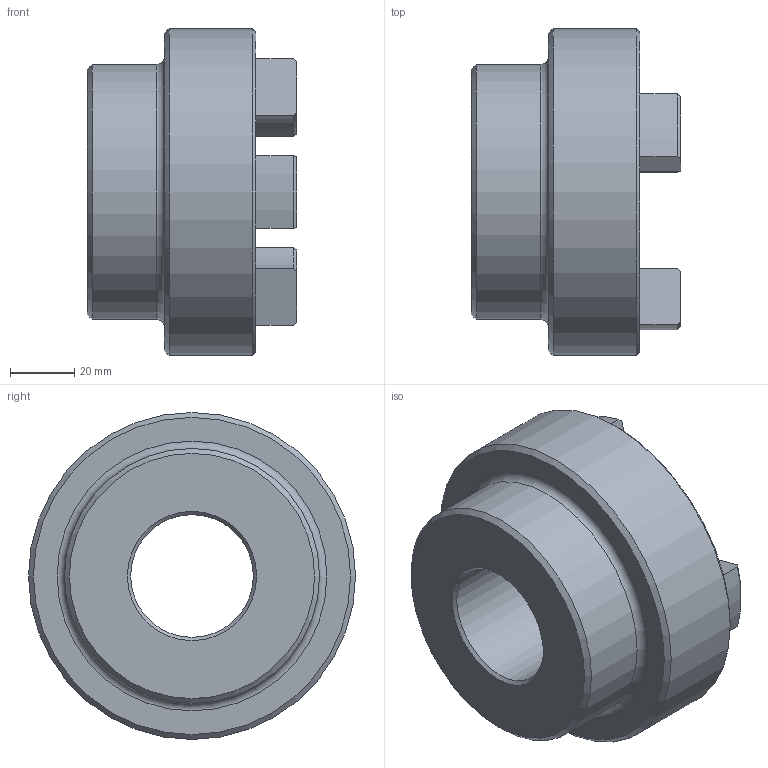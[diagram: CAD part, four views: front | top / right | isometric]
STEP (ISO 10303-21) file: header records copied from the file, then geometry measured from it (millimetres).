
FILE_DESCRIPTION (( 'STEP AP203' ), '1' );
FILE_NAME ('RC4.step', '2024-07-24T17:43:25', ( 'Adlan' ), ( '' ), 'SwSTEP 2.0', 'SolidWorks 2013', '' );
FILE_SCHEMA (( 'CONFIG_CONTROL_DESIGN' ));
Length unit declared in the file: inch
Products named in the file (1): RC4
Bounding box: 65.02 x 101.6 x 101.6 mm (x, y, z)
Volume: 237431.8 mm3; surface area: 40486.2 mm2
Topology: 1 solids, 1 shells, 60 faces, 146 edges, 90 vertices
Faces by surface type: cylinder 24, plane 13, torus 13, cone 10
Full cylindrical faces by diameter (mm): 38.113 x1, 79.248 x1, 101.6 x1
Entity records: 1841 total; most frequent: CARTESIAN_POINT 341, DIRECTION 324, ORIENTED_EDGE 274, EDGE_CURVE 137, AXIS2_PLACEMENT_3D 132, VERTEX_POINT 89, EDGE_LOOP 72, CIRCLE 71
